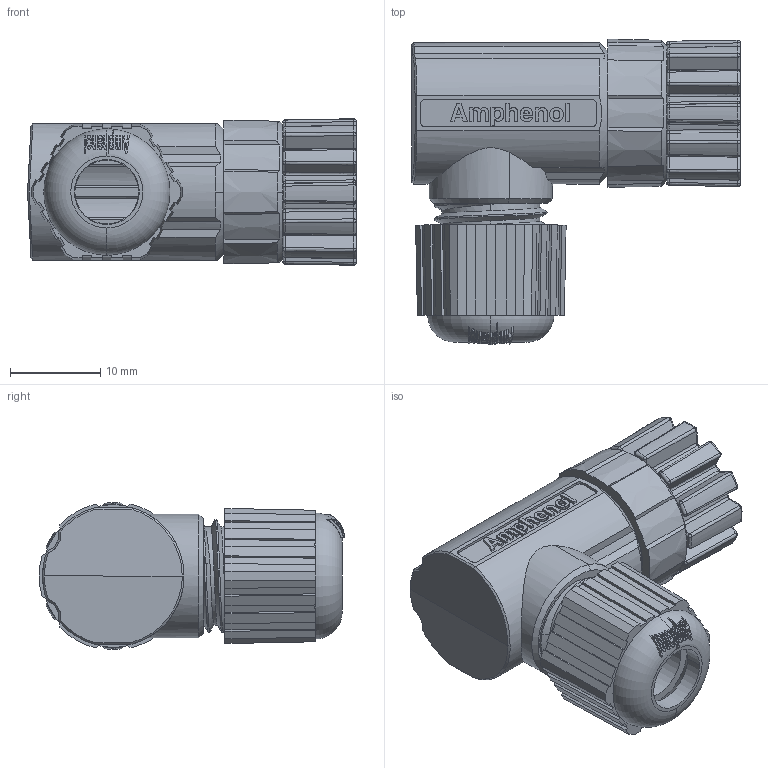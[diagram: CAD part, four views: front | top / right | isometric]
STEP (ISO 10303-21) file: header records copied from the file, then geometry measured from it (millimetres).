
FILE_DESCRIPTION((''),'2;1');
FILE_NAME('M8P-03BFFB-SR7001_SW0001','2024-01-03T',('L230003'),(''),'PRO/ENGINEER BY PARAMETRIC TECHNOLOGY CORPORATION, 2017170','PRO/ENGINEER BY PARAMETRIC TECHNOLOGY CORPORATION, 2017170','');
FILE_SCHEMA(('CONFIG_CONTROL_DESIGN'));
Products named in the file (1): M8P-03BFFB-SR7001_SW0001
Bounding box: 36.5 x 33.9 x 16.26 mm (x, y, z)
Volume: 6998.2 mm3; surface area: 7840.4 mm2
Topology: 1 solids, 1 shells, 1674 faces, 4523 edges, 2882 vertices
Faces by surface type: plane 521, extrusion 446, cylinder 264, bspline 247, cone 76, torus 68, sphere 52
Entity records: 110410 total; most frequent: CARTESIAN_POINT 57497, ORIENTED_EDGE 9034, DIRECTION 5672, EDGE_CURVE 4517, VERTEX_POINT 2882, B_SPLINE_CURVE_WITH_KNOTS 2427, VECTOR 2254, PRESENTATION_STYLE_ASSIGNMENT 2107
